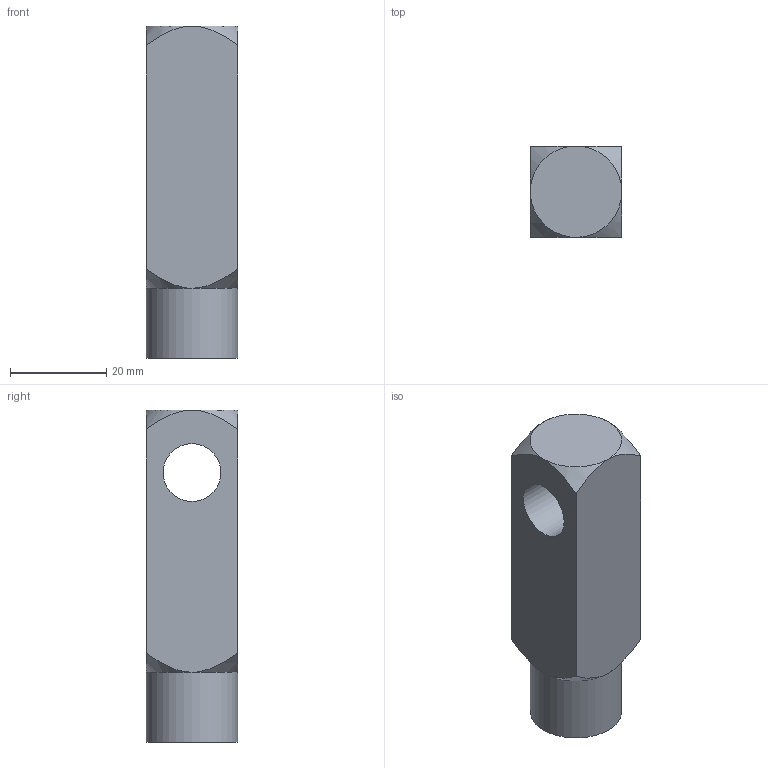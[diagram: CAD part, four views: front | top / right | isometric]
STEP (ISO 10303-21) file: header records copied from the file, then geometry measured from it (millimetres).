
FILE_DESCRIPTION(/* description */ ('Unknown'),/* implementation_level */ '2;1');
FILE_NAME(/* name */ 'WA50_WA63_I',/* time_stamp */ '2026-07-17T17:01:49+08:00',/* author */ ('Unknown'),/* organization */ ('Unknown'),/* preprocessor_version */ 'ST-DEVELOPER v16.7',/* originating_system */ 'DEX',/* authorisation */ $);
FILE_SCHEMA (('CONFIG_CONTROL_DESIGN'));
Length unit declared in the file: millimetre
Products named in the file (1): WA50_WA63_I
Bounding box: 19 x 19 x 69 mm (x, y, z)
Volume: 16347.7 mm3; surface area: 7452.1 mm2
Topology: 1 solids, 1 shells, 15 faces, 35 edges, 22 vertices
Faces by surface type: plane 6, cone 6, cylinder 3
Full cylindrical faces by diameter (mm): 12 x1, 14.376 x1, 19 x1
Entity records: 551 total; most frequent: CARTESIAN_POINT 133, DIRECTION 56, ORIENTED_EDGE 52, EDGE_CURVE 26, AXIS2_PLACEMENT_3D 26, FACE_BOUND 23, EDGE_LOOP 22, VERTEX_POINT 19
